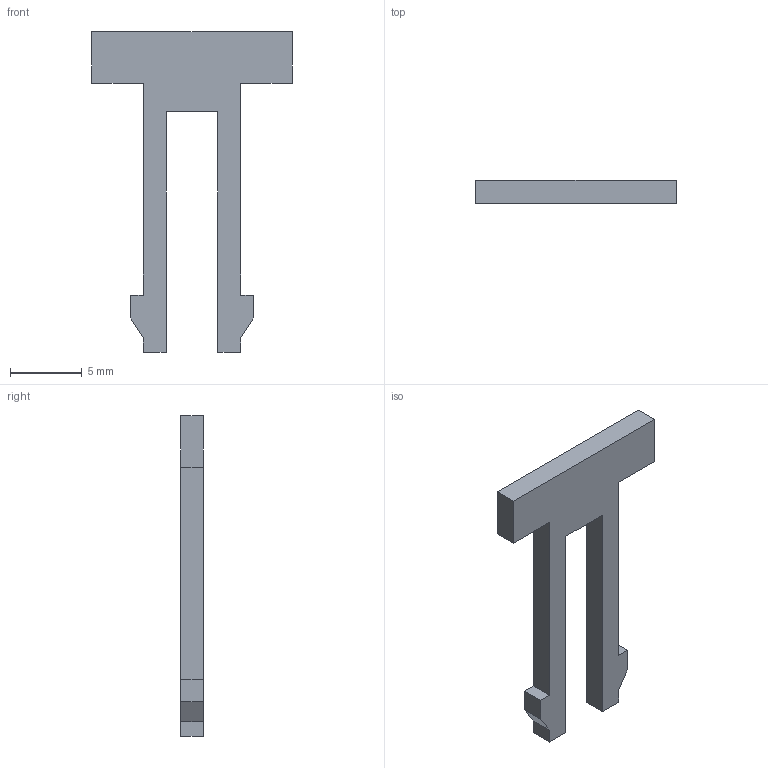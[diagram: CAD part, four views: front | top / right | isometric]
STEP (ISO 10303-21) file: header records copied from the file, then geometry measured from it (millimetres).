
FILE_DESCRIPTION(('Open CASCADE Model'),'2;1');
FILE_NAME('Open CASCADE Shape Model','2026-10-14T01:56:37',('Author'),( 'Open CASCADE'),'Open CASCADE STEP processor 8.0','build123d', 'Unknown');
FILE_SCHEMA(('AUTOMOTIVE_DESIGN { 1 0 10303 214 1 1 1 1 }'));
Length unit declared in the file: millimetre
Products named in the file (1): COMPOUND
Bounding box: 14 x 1.6 x 22.4 mm (x, y, z)
Volume: 195 mm3; surface area: 417.7 mm2
Topology: 1 solids, 1 shells, 22 faces, 60 edges, 40 vertices
Faces by surface type: plane 22
Entity records: 1452 total; most frequent: CARTESIAN_POINT 265, DIRECTION 204, LINE 158, VECTOR 158, ORIENTED_EDGE 120, PCURVE 120, DEFINITIONAL_REPRESENTATION 120, EDGE_CURVE 60
